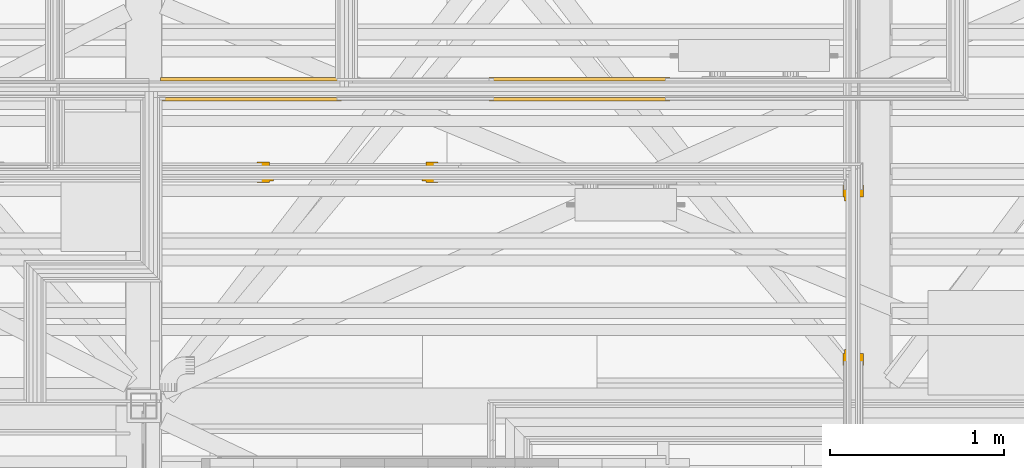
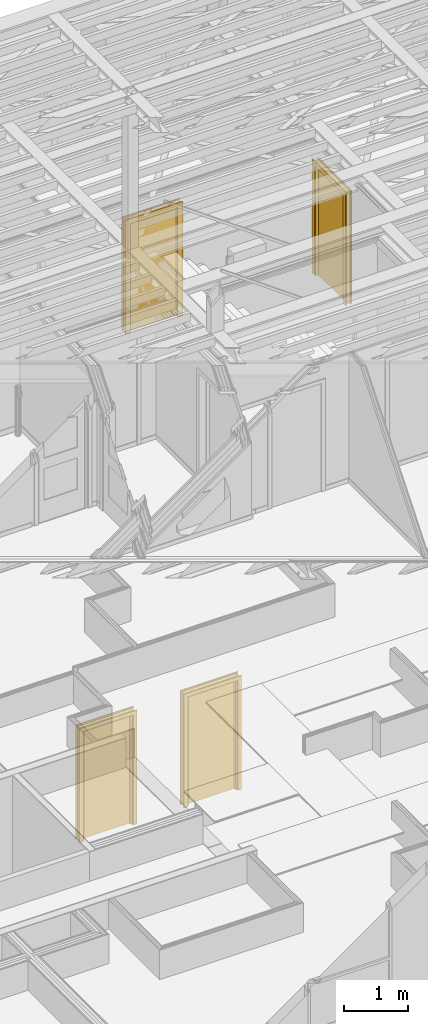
# One storey, part 147 of 183: 4 doors.
"""IFC2X3 building model written with IfcOpenShell, lengths in metres."""

from ifc_helpers import new_model, entity, si_unit, converted_unit, derived_unit, money_unit, direction, frame, origin_with_axes, place, context, subcontext, project, spatial, faceted_brep, material, type_object, element, save


model = new_model("IFC2X3")

# Units and contexts
model_context = context("Model", 3, precision=1e-05, world=origin_with_axes(), true_north=direction((0.0, 1.0)))
body_context = subcontext(model_context, "Body", "Model", "MODEL_VIEW", scale=1.0)
ifc_project = project(units=[si_unit("LENGTHUNIT", "METRE"), si_unit("AREAUNIT", "SQUARE_METRE"), si_unit("VOLUMEUNIT", "CUBIC_METRE"), si_unit("ABSORBEDDOSEUNIT", "GRAY"), si_unit("AMOUNTOFSUBSTANCEUNIT", "MOLE"), si_unit("DOSEEQUIVALENTUNIT", "SIEVERT"), si_unit("ELECTRICCAPACITANCEUNIT", "FARAD"), si_unit("ELECTRICCHARGEUNIT", "COULOMB"), si_unit("ELECTRICCONDUCTANCEUNIT", "SIEMENS"), si_unit("ELECTRICCURRENTUNIT", "AMPERE"), si_unit("ELECTRICRESISTANCEUNIT", "OHM"), si_unit("ELECTRICVOLTAGEUNIT", "VOLT"), si_unit("ENERGYUNIT", "JOULE"), si_unit("FORCEUNIT", "NEWTON"), si_unit("FREQUENCYUNIT", "HERTZ"), si_unit("ILLUMINANCEUNIT", "LUX"), si_unit("INDUCTANCEUNIT", "HENRY"), si_unit("LUMINOUSFLUXUNIT", "LUMEN"), si_unit("LUMINOUSINTENSITYUNIT", "CANDELA"), si_unit("MAGNETICFLUXDENSITYUNIT", "TESLA"), si_unit("MAGNETICFLUXUNIT", "WEBER"), si_unit("MASSUNIT", "GRAM"), converted_unit("PLANEANGLEUNIT", "degree", entity("IfcReal", 0.0174532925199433), si_unit("PLANEANGLEUNIT", "RADIAN"), dimensions=[0, 0, 0, 0, 0, 0, 0]), si_unit("POWERUNIT", "WATT"), si_unit("PRESSUREUNIT", "PASCAL"), si_unit("RADIOACTIVITYUNIT", "BECQUEREL"), si_unit("SOLIDANGLEUNIT", "STERADIAN"), si_unit("THERMODYNAMICTEMPERATUREUNIT", "KELVIN"), si_unit("TIMEUNIT", "SECOND"), derived_unit("ACCELERATIONUNIT", [(si_unit("LENGTHUNIT", "METRE"), 1), (si_unit("TIMEUNIT", "SECOND"), -2)]), derived_unit("ANGULARVELOCITYUNIT", [(converted_unit("PLANEANGLEUNIT", "degree", entity("IfcReal", 0.0174532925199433), si_unit("PLANEANGLEUNIT", "RADIAN"), dimensions=[0, 0, 0, 0, 0, 0, 0]), 1), (si_unit("TIMEUNIT", "SECOND"), -1)]), derived_unit("CURVATUREUNIT", [(converted_unit("PLANEANGLEUNIT", "degree", entity("IfcReal", 0.0174532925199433), si_unit("PLANEANGLEUNIT", "RADIAN"), dimensions=[0, 0, 0, 0, 0, 0, 0]), 1), (si_unit("LENGTHUNIT", "METRE"), -1)]), derived_unit("DYNAMICVISCOSITYUNIT", [(si_unit("PRESSUREUNIT", "PASCAL"), 1), (si_unit("TIMEUNIT", "SECOND"), 1)]), derived_unit("HEATFLUXDENSITYUNIT", [(si_unit("POWERUNIT", "WATT"), 1), (si_unit("LENGTHUNIT", "METRE"), -2)]), derived_unit("HEATINGVALUEUNIT", [(si_unit("ENERGYUNIT", "JOULE"), 1), (si_unit("MASSUNIT", "GRAM"), -1)]), derived_unit("INTEGERCOUNTRATEUNIT", [(si_unit("TIMEUNIT", "SECOND"), -1)]), derived_unit("IONCONCENTRATIONUNIT", [(si_unit("MASSUNIT", "GRAM"), 1), (si_unit("VOLUMEUNIT", "CUBIC_METRE"), -1)]), derived_unit("ISOTHERMALMOISTURECAPACITYUNIT", [(si_unit("VOLUMEUNIT", "CUBIC_METRE"), 1), (si_unit("MASSUNIT", "GRAM"), -1)]), derived_unit("KINEMATICVISCOSITYUNIT", [(si_unit("AREAUNIT", "SQUARE_METRE"), 1), (si_unit("TIMEUNIT", "SECOND"), -1)]), derived_unit("LINEARFORCEUNIT", [(si_unit("FORCEUNIT", "NEWTON"), 1), (si_unit("LENGTHUNIT", "METRE"), -1)]), derived_unit("LINEARMOMENTUNIT", [(si_unit("FORCEUNIT", "NEWTON"), 1), (si_unit("LENGTHUNIT", "METRE"), -1)]), derived_unit("LINEARSTIFFNESSUNIT", [(si_unit("FORCEUNIT", "NEWTON"), 1), (si_unit("LENGTHUNIT", "METRE"), -1)]), derived_unit("LINEARVELOCITYUNIT", [(si_unit("LENGTHUNIT", "METRE"), 1), (si_unit("TIMEUNIT", "SECOND"), -1)]), derived_unit("LUMINOUSINTENSITYDISTRIBUTIONUNIT", [(si_unit("LUMINOUSINTENSITYUNIT", "CANDELA"), 1), (si_unit("LUMINOUSFLUXUNIT", "LUMEN"), -1)]), derived_unit("MASSDENSITYUNIT", [(si_unit("MASSUNIT", "GRAM"), 1), (si_unit("VOLUMEUNIT", "CUBIC_METRE"), -1)]), derived_unit("MASSFLOWRATEUNIT", [(si_unit("MASSUNIT", "GRAM"), 1), (si_unit("TIMEUNIT", "SECOND"), -1)]), derived_unit("MASSPERLENGTHUNIT", [(si_unit("MASSUNIT", "GRAM"), 1), (si_unit("LENGTHUNIT", "METRE"), -1)]), derived_unit("MODULUSOFELASTICITYUNIT", [(si_unit("FORCEUNIT", "NEWTON"), 1), (si_unit("AREAUNIT", "SQUARE_METRE"), -1)]), derived_unit("MODULUSOFLINEARSUBGRADEREACTIONUNIT", [(si_unit("FORCEUNIT", "NEWTON"), 1), (si_unit("LENGTHUNIT", "METRE"), -2)]), derived_unit("MODULUSOFROTATIONALSUBGRADEREACTIONUNIT", [(si_unit("FORCEUNIT", "NEWTON"), 1), (si_unit("LENGTHUNIT", "METRE"), 1)]), derived_unit("MODULUSOFSUBGRADEREACTIONUNIT", [(si_unit("FORCEUNIT", "NEWTON"), 1), (si_unit("VOLUMEUNIT", "CUBIC_METRE"), -1)]), derived_unit("MOISTUREDIFFUSIVITYUNIT", [(si_unit("VOLUMEUNIT", "CUBIC_METRE"), 1), (si_unit("TIMEUNIT", "SECOND"), -1)]), derived_unit("MOLECULARWEIGHTUNIT", [(si_unit("MASSUNIT", "GRAM"), 1), (si_unit("AMOUNTOFSUBSTANCEUNIT", "MOLE"), -1)]), derived_unit("PLANARFORCEUNIT", [(si_unit("FORCEUNIT", "NEWTON"), 1), (si_unit("LENGTHUNIT", "METRE"), -2)]), derived_unit("ROTATIONALFREQUENCYUNIT", [(si_unit("TIMEUNIT", "SECOND"), -1)]), derived_unit("ROTATIONALMASSUNIT", [(si_unit("MASSUNIT", "GRAM"), 1), (si_unit("LENGTHUNIT", "METRE"), 2)]), derived_unit("ROTATIONALSTIFFNESSUNIT", [(si_unit("FORCEUNIT", "NEWTON"), 1), (si_unit("LENGTHUNIT", "METRE"), 1), (converted_unit("PLANEANGLEUNIT", "degree", entity("IfcReal", 0.0174532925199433), si_unit("PLANEANGLEUNIT", "RADIAN"), dimensions=[0, 0, 0, 0, 0, 0, 0]), -1)]), derived_unit("SECTIONAREAINTEGRALUNIT", [(si_unit("LENGTHUNIT", "METRE"), 5)]), derived_unit("SECTIONMODULUSUNIT", [(si_unit("LENGTHUNIT", "METRE"), 3)]), derived_unit("SHEARMODULUSUNIT", [(si_unit("FORCEUNIT", "NEWTON"), 1), (si_unit("AREAUNIT", "SQUARE_METRE"), -1)]), derived_unit("SOUNDPOWERUNIT", [(si_unit("ENERGYUNIT", "JOULE"), 1), (si_unit("TIMEUNIT", "SECOND"), -1)]), derived_unit("SPECIFICHEATCAPACITYUNIT", [(si_unit("FORCEUNIT", "NEWTON"), 1), (si_unit("MASSUNIT", "GRAM"), -1), (si_unit("THERMODYNAMICTEMPERATUREUNIT", "KELVIN"), -1)]), derived_unit("TEMPERATUREGRADIENTUNIT", [(si_unit("THERMODYNAMICTEMPERATUREUNIT", "KELVIN"), 1), (si_unit("LENGTHUNIT", "METRE"), -1)]), derived_unit("THERMALADMITTANCEUNIT", [(si_unit("POWERUNIT", "WATT"), 1), (si_unit("AREAUNIT", "SQUARE_METRE"), -1), (si_unit("THERMODYNAMICTEMPERATUREUNIT", "KELVIN"), -1)]), derived_unit("THERMALCONDUCTANCEUNIT", [(si_unit("POWERUNIT", "WATT"), 1), (si_unit("LENGTHUNIT", "METRE"), -1), (si_unit("THERMODYNAMICTEMPERATUREUNIT", "KELVIN"), -1)]), derived_unit("THERMALEXPANSIONCOEFFICIENTUNIT", [(si_unit("THERMODYNAMICTEMPERATUREUNIT", "KELVIN"), -1)]), derived_unit("THERMALRESISTANCEUNIT", [(si_unit("AREAUNIT", "SQUARE_METRE"), 1), (si_unit("POWERUNIT", "WATT"), -1)]), derived_unit("THERMALTRANSMITTANCEUNIT", [(si_unit("POWERUNIT", "WATT"), 1), (si_unit("AREAUNIT", "SQUARE_METRE"), -1), (si_unit("THERMODYNAMICTEMPERATUREUNIT", "KELVIN"), -1)]), derived_unit("TORQUEUNIT", [(si_unit("FORCEUNIT", "NEWTON"), 1), (si_unit("LENGTHUNIT", "METRE"), 1)]), derived_unit("VAPORPERMEABILITYUNIT", [(si_unit("MASSUNIT", "GRAM"), 1), (si_unit("TIMEUNIT", "SECOND"), -1)]), derived_unit("VOLUMETRICFLOWRATEUNIT", [(si_unit("VOLUMEUNIT", "CUBIC_METRE"), 1), (si_unit("TIMEUNIT", "SECOND"), -1)]), derived_unit("WARPINGCONSTANTUNIT", [(si_unit("LENGTHUNIT", "METRE"), 6)]), derived_unit("WARPINGMOMENTUNIT", [(si_unit("FORCEUNIT", "NEWTON"), 1), (si_unit("LENGTHUNIT", "METRE"), 2)]), money_unit("GBP")], contexts=[model_context])

# Site, building, storey, space
site_placement = place(None, origin_with_axes())
site = spatial("IfcSite", under=ifc_project, at=site_placement, Name="Site", CompositionType="ELEMENT")
building_placement = place(site_placement, origin_with_axes())
building = spatial("IfcBuilding", under=site, at=building_placement, Name="Building01", CompositionType="ELEMENT")
storey_placement = place(building_placement, frame((0.0, 0.0, 5.15), z_axis=(0.0, 0.0, 1.0), x_axis=(1.0, 0.0, 0.0)))
storey = spatial("IfcBuildingStorey", under=building, at=storey_placement, Name="1F", CompositionType="ELEMENT", Elevation=5.15)
space_1_placement = place(storey_placement, frame((16.03844, 8.82, 9.81), z_axis=(0.0, 0.0, 1.0), x_axis=(0.0, -1.0, 0.0)))
space_1 = spatial("IfcSpace", under=storey, at=space_1_placement, Name="23", CompositionType="ELEMENT", InteriorOrExteriorSpace="NOTDEFINED")

# Doors
ifc_material = material(Name="A_BSUK_Doors")
door_style_1 = type_object("IfcDoorStyle", Name="A-Doors-SingleFlush", ConstructionType="USERDEFINED", OperationType="SINGLE_SWING_RIGHT", ParameterTakesPrecedence=False, Sizeable=False)
door_1_placement = place(storey_placement, frame((18.629976, 10.179939, 9.78), z_axis=(0.0, 0.0, 1.0), x_axis=(1.0, 0.0, 0.0)))
element("IfcDoor", 1, at=door_1_placement, inside=space_1, type_object=door_style_1, material=ifc_material, Name="4.08", ObjectType="A-Doors-SingleFlush", OverallHeight=2.16900000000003, OverallWidth=1.03800000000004, context=body_context, shape_type="Brep", body=[
    faceted_brep([(0.9, -0.099, 0.0), (0.969, -0.099, 0.0), (0.969, -0.099, 2.169), (-0.069, -0.099, 2.169), (-0.069, -0.099, 0.0), (0.0, -0.099, 0.0), (0.0, -0.099, 2.1), (0.9, -0.099, 2.1), (-0.069, -0.08, 0.0), (-0.069, -0.08, 2.169), (0.969, -0.08, 2.169), (0.969, -0.08, 0.0), (0.9, 0.019, 0.0), (0.969, 0.019, 0.0), (0.969, 0.0, 0.0), (0.942, 0.0, 0.0), (0.942, -0.08, 0.0), (0.9, 0.019, 2.1), (0.0, 0.019, 2.1), (0.0, 0.019, 0.0), (-0.069, 0.019, 0.0), (-0.069, 0.019, 2.169), (0.969, 0.019, 2.169), (0.969, 0.0, 2.169), (0.942, -0.08, 2.142), (0.942, 0.0, 2.142), (-0.042, -0.08, 2.142), (-0.042, 0.0, 2.142), (-0.042, -0.08, 0.0), (-0.042, 0.0, 0.0), (-0.069, 0.0, 2.169), (-0.069, 0.0, 0.0)], [[[0, 1, 2, 3, 4, 5, 6, 7]], [[8, 4, 3, 9]], [[10, 2, 1, 11]], [[9, 3, 2, 10]], [[12, 13, 14, 15, 16, 11, 1, 0]], [[7, 17, 12, 0]], [[6, 18, 17, 7]], [[18, 19, 20, 21, 22, 13, 12, 17]], [[5, 19, 18, 6]], [[13, 22, 23, 14]], [[24, 16, 15, 25]], [[26, 24, 25, 27]], [[11, 16, 24, 26, 28, 8, 9, 10]], [[27, 29, 28, 26]], [[25, 15, 14, 23, 30, 31, 29, 27]], [[5, 4, 8, 28, 29, 31, 20, 19]], [[30, 21, 20, 31]], [[23, 22, 21, 30]]]),
    faceted_brep([(0.0, -0.09, 2.1), (0.0, -0.04, 2.1), (0.0, -0.04, 0.0), (0.0, -0.09, 0.0), (0.875, -0.09, 0.0), (0.9, -0.09, 0.0), (0.9, -0.09, 2.1), (0.025, -0.09, 0.0), (0.025, -0.09, 2.075), (0.875, -0.09, 2.075), (0.875, -0.04, 0.0), (0.9, -0.04, 0.0), (0.9, -0.04, 2.1), (0.025, -0.04, 2.075), (0.025, -0.04, 0.0), (0.875, -0.04, 2.075)], [[[0, 1, 2, 3]], [[4, 5, 6, 0, 3, 7, 8, 9]], [[10, 11, 5, 4]], [[6, 12, 1, 0]], [[5, 11, 12, 6]], [[13, 14, 2, 1, 12, 11, 10, 15]], [[7, 14, 13, 8]], [[7, 3, 2, 14]], [[9, 15, 10, 4]], [[8, 13, 15, 9]]]),
    faceted_brep([(0.9, -0.04, 0.0), (0.9, 0.0, 0.0), (0.9, 0.0, 2.1), (0.9, -0.04, 2.1), (0.0, -0.04, 2.1), (0.0, 0.0, 2.1), (0.0, 0.0, 0.0), (0.0, -0.04, 0.0)], [[[0, 1, 2, 3]], [[4, 5, 6, 7]], [[7, 6, 1, 0]], [[3, 4, 7, 0]], [[3, 2, 5, 4]], [[1, 6, 5, 2]]]),
])
door_2_placement = place(storey_placement, frame((22.019976, 9.999939, 9.78), z_axis=(0.0, 0.0, 1.0), x_axis=(0.0, -1.0, 0.0)))
element("IfcDoor", 2, at=door_2_placement, inside=space_1, type_object=door_style_1, material=ifc_material, Name="4.10", ObjectType="A-Doors-SingleFlush", OverallHeight=2.16900000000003, OverallWidth=1.03800000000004, context=body_context, shape_type="Brep", body=[
    faceted_brep([(0.9, -0.099, 0.0), (0.969, -0.099, 0.0), (0.969, -0.099, 2.169), (-0.069, -0.099, 2.169), (-0.069, -0.099, 0.0), (0.0, -0.099, 0.0), (0.0, -0.099, 2.1), (0.9, -0.099, 2.1), (-0.069, -0.08, 0.0), (-0.069, -0.08, 2.169), (0.969, -0.08, 2.169), (0.969, -0.08, 0.0), (0.9, 0.019, 0.0), (0.969, 0.019, 0.0), (0.969, 0.0, 0.0), (0.942, 0.0, 0.0), (0.942, -0.08, 0.0), (0.9, 0.019, 2.1), (0.0, 0.019, 2.1), (0.0, 0.019, 0.0), (-0.069, 0.019, 0.0), (-0.069, 0.019, 2.169), (0.969, 0.019, 2.169), (0.969, 0.0, 2.169), (0.942, -0.08, 2.142), (0.942, 0.0, 2.142), (-0.042, -0.08, 2.142), (-0.042, 0.0, 2.142), (-0.042, -0.08, 0.0), (-0.042, 0.0, 0.0), (-0.069, 0.0, 2.169), (-0.069, 0.0, 0.0)], [[[0, 1, 2, 3, 4, 5, 6, 7]], [[8, 4, 3, 9]], [[10, 2, 1, 11]], [[9, 3, 2, 10]], [[12, 13, 14, 15, 16, 11, 1, 0]], [[7, 17, 12, 0]], [[6, 18, 17, 7]], [[18, 19, 20, 21, 22, 13, 12, 17]], [[5, 19, 18, 6]], [[13, 22, 23, 14]], [[24, 16, 15, 25]], [[26, 24, 25, 27]], [[11, 16, 24, 26, 28, 8, 9, 10]], [[27, 29, 28, 26]], [[25, 15, 14, 23, 30, 31, 29, 27]], [[5, 4, 8, 28, 29, 31, 20, 19]], [[30, 21, 20, 31]], [[23, 22, 21, 30]]]),
    faceted_brep([(0.0, -0.09, 2.1), (0.0, -0.04, 2.1), (0.0, -0.04, 0.0), (0.0, -0.09, 0.0), (0.875, -0.09, 0.0), (0.9, -0.09, 0.0), (0.9, -0.09, 2.1), (0.025, -0.09, 0.0), (0.025, -0.09, 2.075), (0.875, -0.09, 2.075), (0.875, -0.04, 0.0), (0.9, -0.04, 0.0), (0.9, -0.04, 2.1), (0.025, -0.04, 2.075), (0.025, -0.04, 0.0), (0.875, -0.04, 2.075)], [[[0, 1, 2, 3]], [[4, 5, 6, 0, 3, 7, 8, 9]], [[10, 11, 5, 4]], [[6, 12, 1, 0]], [[5, 11, 12, 6]], [[13, 14, 2, 1, 12, 11, 10, 15]], [[7, 14, 13, 8]], [[7, 3, 2, 14]], [[9, 15, 10, 4]], [[8, 13, 15, 9]]]),
    faceted_brep([(0.9, -0.04, 0.0), (0.9, 0.0, 0.0), (0.9, 0.0, 2.1), (0.9, -0.04, 2.1), (0.0, -0.04, 2.1), (0.0, 0.0, 2.1), (0.0, 0.0, 0.0), (0.0, -0.04, 0.0)], [[[0, 1, 2, 3]], [[4, 5, 6, 7]], [[7, 6, 1, 0]], [[3, 4, 7, 0]], [[3, 2, 5, 4]], [[1, 6, 5, 2]]]),
])

# Space
space_2_placement = place(storey_placement, frame((15.83, 8.82, 0.017975), z_axis=(0.0, 0.0, 1.0), x_axis=(0.0, -1.0, 0.0)))
space_2 = spatial("IfcSpace", under=storey, at=space_2_placement, Name="02", CompositionType="ELEMENT", InteriorOrExteriorSpace="NOTDEFINED")

# Doors
door_style_2 = type_object("IfcDoorStyle", Name="A-Doors-SingleFlush", ConstructionType="USERDEFINED", OperationType="SINGLE_SWING_LEFT", ParameterTakesPrecedence=False, Sizeable=False)
door_3_placement = place(storey_placement, frame((19.960284, 10.665, 0.0), z_axis=(0.0, 0.0, 1.0), x_axis=(1.0, 0.0, 0.0)))
element("IfcDoor", 3, at=door_3_placement, inside=space_2, type_object=door_style_2, material=ifc_material, Name="1.07", ObjectType="A-Doors-SingleFlush", OverallHeight=2.16900000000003, OverallWidth=1.03800000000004, context=body_context, shape_type="Brep", body=[
    faceted_brep([(0.0, -0.114, 2.1), (0.9, -0.114, 2.1), (0.9, -0.114, 0.0), (0.969, -0.114, 0.0), (0.969, -0.114, 2.169), (-0.069, -0.114, 2.169), (-0.069, -0.114, 0.0), (0.0, -0.114, 0.0), (0.969, -0.095, 2.169), (0.969, -0.095, 0.0), (-0.069, -0.095, 0.0), (-0.069, -0.095, 2.169), (-0.042, -0.095, 0.0), (-0.042, 0.0, 0.0), (-0.069, 0.0, 0.0), (-0.069, 0.019, 0.0), (0.0, 0.019, 0.0), (0.0, 0.019, 2.1), (0.9, 0.019, 2.1), (-0.069, 0.019, 2.169), (0.969, 0.019, 2.169), (0.969, 0.019, 0.0), (0.9, 0.019, 0.0), (-0.069, 0.0, 2.169), (-0.042, 0.0, 2.142), (-0.042, -0.095, 2.142), (0.942, 0.0, 2.142), (0.942, -0.095, 2.142), (0.942, -0.095, 0.0), (0.942, 0.0, 0.0), (0.969, 0.0, 0.0), (0.969, 0.0, 2.169)], [[[0, 1, 2, 3, 4, 5, 6, 7]], [[8, 4, 3, 9]], [[10, 6, 5, 11]], [[11, 5, 4, 8]], [[7, 6, 10, 12, 13, 14, 15, 16]], [[7, 16, 17, 0]], [[0, 17, 18, 1]], [[17, 16, 15, 19, 20, 21, 22, 18]], [[1, 18, 22, 2]], [[14, 23, 19, 15]], [[24, 13, 12, 25]], [[26, 24, 25, 27]], [[11, 8, 9, 28, 27, 25, 12, 10]], [[27, 28, 29, 26]], [[26, 29, 30, 31, 23, 14, 13, 24]], [[22, 21, 30, 29, 28, 9, 3, 2]], [[30, 21, 20, 31]], [[31, 20, 19, 23]]]),
    faceted_brep([(0.9, -0.09, 0.0), (0.9, -0.04, 0.0), (0.9, -0.04, 2.1), (0.9, -0.09, 2.1), (0.025, -0.09, 2.075), (0.875, -0.09, 2.075), (0.875, -0.09, 0.0), (0.0, -0.09, 2.1), (0.0, -0.09, 0.0), (0.025, -0.09, 0.0), (0.0, -0.04, 0.0), (0.025, -0.04, 0.0), (0.0, -0.04, 2.1), (0.025, -0.04, 2.075), (0.875, -0.04, 0.0), (0.875, -0.04, 2.075)], [[[0, 1, 2, 3]], [[4, 5, 6, 0, 3, 7, 8, 9]], [[9, 8, 10, 11]], [[3, 2, 12, 7]], [[7, 12, 10, 8]], [[13, 11, 10, 12, 2, 1, 14, 15]], [[5, 15, 14, 6]], [[14, 1, 0, 6]], [[9, 11, 13, 4]], [[4, 13, 15, 5]]]),
    faceted_brep([(0.0, -0.04, 2.1), (0.0, 0.0, 2.1), (0.0, 0.0, 0.0), (0.0, -0.04, 0.0), (0.9, -0.04, 0.0), (0.9, 0.0, 0.0), (0.9, 0.0, 2.1), (0.9, -0.04, 2.1)], [[[0, 1, 2, 3]], [[4, 5, 6, 7]], [[3, 2, 5, 4]], [[3, 4, 7, 0]], [[7, 6, 1, 0]], [[1, 6, 5, 2]]]),
])
door_style_3 = type_object("IfcDoorStyle", Name="A-Doors-SingleFlush", ConstructionType="USERDEFINED", OperationType="SINGLE_SWING_RIGHT", ParameterTakesPrecedence=False, Sizeable=False)
door_4_placement = place(storey_placement, frame((18.075398, 10.665, 0.0), z_axis=(0.0, 0.0, 1.0), x_axis=(1.0, 0.0, 0.0)))
element("IfcDoor", 4, at=door_4_placement, inside=space_2, type_object=door_style_3, material=ifc_material, Name="1.06", ObjectType="A-Doors-SingleFlush", OverallHeight=2.16900000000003, OverallWidth=1.03800000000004, context=body_context, shape_type="Brep", body=[
    faceted_brep([(0.9, -0.114, 0.0), (0.969, -0.114, 0.0), (0.969, -0.114, 2.169), (-0.069, -0.114, 2.169), (-0.069, -0.114, 0.0), (0.0, -0.114, 0.0), (0.0, -0.114, 2.1), (0.9, -0.114, 2.1), (-0.069, -0.095, 0.0), (-0.069, -0.095, 2.169), (0.969, -0.095, 2.169), (0.969, -0.095, 0.0), (0.9, 0.019, 0.0), (0.969, 0.019, 0.0), (0.969, 0.0, 0.0), (0.942, 0.0, 0.0), (0.942, -0.095, 0.0), (0.9, 0.019, 2.1), (0.0, 0.019, 2.1), (0.0, 0.019, 0.0), (-0.069, 0.019, 0.0), (-0.069, 0.019, 2.169), (0.969, 0.019, 2.169), (0.969, 0.0, 2.169), (0.942, -0.095, 2.142), (0.942, 0.0, 2.142), (-0.042, -0.095, 2.142), (-0.042, 0.0, 2.142), (-0.042, -0.095, 0.0), (-0.042, 0.0, 0.0), (-0.069, 0.0, 2.169), (-0.069, 0.0, 0.0)], [[[0, 1, 2, 3, 4, 5, 6, 7]], [[8, 4, 3, 9]], [[10, 2, 1, 11]], [[9, 3, 2, 10]], [[12, 13, 14, 15, 16, 11, 1, 0]], [[7, 17, 12, 0]], [[6, 18, 17, 7]], [[18, 19, 20, 21, 22, 13, 12, 17]], [[5, 19, 18, 6]], [[13, 22, 23, 14]], [[24, 16, 15, 25]], [[26, 24, 25, 27]], [[11, 16, 24, 26, 28, 8, 9, 10]], [[27, 29, 28, 26]], [[25, 15, 14, 23, 30, 31, 29, 27]], [[5, 4, 8, 28, 29, 31, 20, 19]], [[30, 21, 20, 31]], [[23, 22, 21, 30]]]),
    faceted_brep([(0.0, -0.09, 2.1), (0.0, -0.04, 2.1), (0.0, -0.04, 0.0), (0.0, -0.09, 0.0), (0.875, -0.09, 0.0), (0.9, -0.09, 0.0), (0.9, -0.09, 2.1), (0.025, -0.09, 0.0), (0.025, -0.09, 2.075), (0.875, -0.09, 2.075), (0.875, -0.04, 0.0), (0.9, -0.04, 0.0), (0.9, -0.04, 2.1), (0.025, -0.04, 2.075), (0.025, -0.04, 0.0), (0.875, -0.04, 2.075)], [[[0, 1, 2, 3]], [[4, 5, 6, 0, 3, 7, 8, 9]], [[10, 11, 5, 4]], [[6, 12, 1, 0]], [[5, 11, 12, 6]], [[13, 14, 2, 1, 12, 11, 10, 15]], [[7, 14, 13, 8]], [[7, 3, 2, 14]], [[9, 15, 10, 4]], [[8, 13, 15, 9]]]),
    faceted_brep([(0.9, -0.04, 0.0), (0.9, 0.0, 0.0), (0.9, 0.0, 2.1), (0.9, -0.04, 2.1), (0.0, -0.04, 2.1), (0.0, 0.0, 2.1), (0.0, 0.0, 0.0), (0.0, -0.04, 0.0)], [[[0, 1, 2, 3]], [[4, 5, 6, 7]], [[7, 6, 1, 0]], [[3, 4, 7, 0]], [[3, 2, 5, 4]], [[1, 6, 5, 2]]]),
])

save(model, "model.ifc")
